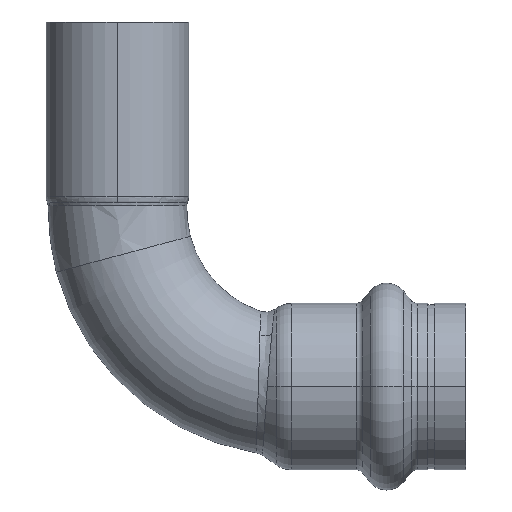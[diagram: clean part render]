
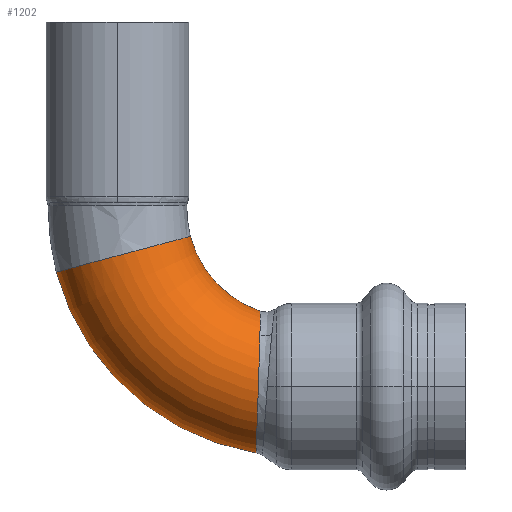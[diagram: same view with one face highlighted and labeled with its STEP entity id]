
A CAD part, top view. The second image highlights one B-rep face of the part: STEP entity #1202.
In plain terms, the highlighted toroidal (fillet/blend) face has major radius 22.5 mm and minor radius 8.75 mm.
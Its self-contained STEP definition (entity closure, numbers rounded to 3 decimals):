
#45 = CARTESIAN_POINT ( 'NONE',  ( 17.525, -7.859, 2.906 ) ) ;
#60 = B_SPLINE_CURVE_WITH_KNOTS ( 'NONE', 3,
 ( #852, #574, #2210, #2737, #1132, #1146, #3000, #2993, #1408, #3244, #1674, #3515, #1949, #298 ),
 .UNSPECIFIED., .F., .F.,
 ( 4, 2, 2, 2, 2, 2, 4 ),
 ( 0.026, 0.028, 0.029, 0.03, 0.031, 0.032, 0.033 ),
 .UNSPECIFIED. ) ;
#65 = VERTEX_POINT ( 'NONE', #2283 ) ;
#66 = CARTESIAN_POINT ( 'NONE',  ( 17.762, -1.067, 8.624 ) ) ;
#298 = CARTESIAN_POINT ( 'NONE',  ( 18.053, 9.489, 0. ) ) ;
#317 = DIRECTION ( 'NONE',  ( -1., 0., 0. ) ) ;
#330 = CARTESIAN_POINT ( 'NONE',  ( 22.5, 22.5, 0. ) ) ;
#364 = CARTESIAN_POINT ( 'NONE',  ( 17.543, -7.351, 4.065 ) ) ;
#372 = CARTESIAN_POINT ( 'NONE',  ( 17.805, 0.2, 8.755 ) ) ;
#381 = DIRECTION ( 'NONE',  ( 0., 0., -1. ) ) ;
#489 = EDGE_CURVE ( 'NONE', #3004, #1353, #655, .T. ) ;
#498 = FACE_OUTER_BOUND ( 'NONE', #2773, .T. ) ;
#552 = EDGE_CURVE ( 'NONE', #1655, #3366, #60, .T. ) ;
#574 = CARTESIAN_POINT ( 'NONE',  ( 18.004, 6.902, 6.137 ) ) ;
#638 = B_SPLINE_CURVE_WITH_KNOTS ( 'NONE', 3,
 ( #2252, #2778, #1459, #3303, #1732, #45, #2002, #364, #2273, #644, #2545, #919, #2792, #1201, #3064, #1469, #3311, #1744, #66, #2012, #372, #2292, #654, #2552, #931, #2805, #1211, #3071, #1486, #3321, #1755 ),
 .UNSPECIFIED., .F., .F.,
 ( 4, 2, 2, 2, 2, 2, 2, 2, 2, 2, 2, 2, 2, 1, 2, 4 ),
 ( 0.005, 0.006, 0.008, 0.009, 0.01, 0.012, 0.013, 0.015, 0.017, 0.018, 0.019, 0.021, 0.022, 0.023, 0.024, 0.026 ),
 .UNSPECIFIED. ) ;
#644 = CARTESIAN_POINT ( 'NONE',  ( 17.567, -6.676, 5.145 ) ) ;
#654 = CARTESIAN_POINT ( 'NONE',  ( 17.846, 1.463, 8.708 ) ) ;
#655 = CIRCLE ( 'NONE', #2477, 8.75 ) ;
#711 = DIRECTION ( 'NONE',  ( 0., 0., -1. ) ) ;
#852 = CARTESIAN_POINT ( 'NONE',  ( 17.992, 6.43, 6.543 ) ) ;
#919 = CARTESIAN_POINT ( 'NONE',  ( 17.596, -5.859, 6.107 ) ) ;
#931 = CARTESIAN_POINT ( 'NONE',  ( 17.886, 2.711, 8.484 ) ) ;
#999 = CARTESIAN_POINT ( 'NONE',  ( 0.76, 16.7, 0. ) ) ;
#1060 = ORIENTED_EDGE ( 'NONE', *, *, #2548, .T. ) ;
#1105 = ORIENTED_EDGE ( 'NONE', *, *, #489, .F. ) ;
#1115 = CARTESIAN_POINT ( 'NONE',  ( 22.5, 22.5, 0. ) ) ;
#1132 = CARTESIAN_POINT ( 'NONE',  ( 18.036, 8.408, 4.168 ) ) ;
#1146 = CARTESIAN_POINT ( 'NONE',  ( 18.043, 8.808, 3.322 ) ) ;
#1151 = CARTESIAN_POINT ( 'NONE',  ( 17.992, 6.43, 6.543 ) ) ;
#1201 = CARTESIAN_POINT ( 'NONE',  ( 17.641, -4.577, 7.224 ) ) ;
#1202 = ADVANCED_FACE ( 'NONE', ( #498 ), #2666, .T. ) ;
#1211 = CARTESIAN_POINT ( 'NONE',  ( 17.935, 4.313, 7.938 ) ) ;
#1353 = VERTEX_POINT ( 'NONE', #3385 ) ;
#1378 = DIRECTION ( 'NONE',  ( -1., 0., 0. ) ) ;
#1408 = CARTESIAN_POINT ( 'NONE',  ( 18.049, 9.213, 2.149 ) ) ;
#1434 = AXIS2_PLACEMENT_3D ( 'NONE', #330, #381, #317 ) ;
#1442 = CIRCLE ( 'NONE', #2677, 13.75 ) ;
#1459 = CARTESIAN_POINT ( 'NONE',  ( 17.509, -8.318, 0.842 ) ) ;
#1469 = CARTESIAN_POINT ( 'NONE',  ( 17.707, -2.692, 8.177 ) ) ;
#1486 = CARTESIAN_POINT ( 'NONE',  ( 17.975, 5.766, 7.075 ) ) ;
#1564 = ORIENTED_EDGE ( 'NONE', *, *, #2538, .F. ) ;
#1603 = ORIENTED_EDGE ( 'NONE', *, *, #552, .T. ) ;
#1655 = VERTEX_POINT ( 'NONE', #1151 ) ;
#1674 = CARTESIAN_POINT ( 'NONE',  ( 18.052, 9.402, 1.243 ) ) ;
#1732 = CARTESIAN_POINT ( 'NONE',  ( 17.517, -8.102, 2.099 ) ) ;
#1744 = CARTESIAN_POINT ( 'NONE',  ( 17.748, -1.48, 8.541 ) ) ;
#1755 = CARTESIAN_POINT ( 'NONE',  ( 17.992, 6.43, 6.543 ) ) ;
#1777 = EDGE_CURVE ( 'NONE', #65, #1655, #638, .T. ) ;
#1885 = CARTESIAN_POINT ( 'NONE',  ( -7.694, 14.444, 0. ) ) ;
#1949 = CARTESIAN_POINT ( 'NONE',  ( 18.053, 9.489, 0.31 ) ) ;
#1982 = CARTESIAN_POINT ( 'NONE',  ( 18.053, 9.489, 0. ) ) ;
#2002 = CARTESIAN_POINT ( 'NONE',  ( 17.531, -7.709, 3.299 ) ) ;
#2012 = CARTESIAN_POINT ( 'NONE',  ( 17.79, -0.228, 8.731 ) ) ;
#2132 = DIRECTION ( 'NONE',  ( -0.258, 0.966, 0. ) ) ;
#2210 = CARTESIAN_POINT ( 'NONE',  ( 18.014, 7.335, 5.678 ) ) ;
#2252 = CARTESIAN_POINT ( 'NONE',  ( 17.508, -8.349, 0. ) ) ;
#2273 = CARTESIAN_POINT ( 'NONE',  ( 17.551, -7.141, 4.44 ) ) ;
#2283 = CARTESIAN_POINT ( 'NONE',  ( 17.508, -8.349, 0. ) ) ;
#2292 = CARTESIAN_POINT ( 'NONE',  ( 17.832, 1.044, 8.743 ) ) ;
#2315 = AXIS2_PLACEMENT_3D ( 'NONE', #1115, #2968, #1378 ) ;
#2345 = CARTESIAN_POINT ( 'NONE',  ( 22.5, 22.5, 0. ) ) ;
#2477 = AXIS2_PLACEMENT_3D ( 'NONE', #999, #2132, #3423 ) ;
#2538 = EDGE_CURVE ( 'NONE', #65, #3004, #3017, .T. ) ;
#2545 = CARTESIAN_POINT ( 'NONE',  ( 17.577, -6.42, 5.478 ) ) ;
#2548 = EDGE_CURVE ( 'NONE', #3366, #1353, #1442, .T. ) ;
#2552 = CARTESIAN_POINT ( 'NONE',  ( 17.873, 2.296, 8.579 ) ) ;
#2605 = DIRECTION ( 'NONE',  ( -1., 0., 0. ) ) ;
#2666 = TOROIDAL_SURFACE ( 'NONE', #1434, 22.5, 8.75 ) ;
#2677 = AXIS2_PLACEMENT_3D ( 'NONE', #2345, #711, #2605 ) ;
#2737 = CARTESIAN_POINT ( 'NONE',  ( 18.03, 8.086, 4.695 ) ) ;
#2773 = EDGE_LOOP ( 'NONE', ( #1564, #3502, #1603, #1060, #1105 ) ) ;
#2778 = CARTESIAN_POINT ( 'NONE',  ( 17.508, -8.349, 0.421 ) ) ;
#2792 = CARTESIAN_POINT ( 'NONE',  ( 17.607, -5.553, 6.405 ) ) ;
#2805 = CARTESIAN_POINT ( 'NONE',  ( 17.911, 3.524, 8.238 ) ) ;
#2968 = DIRECTION ( 'NONE',  ( 0., 0., -1. ) ) ;
#2993 = CARTESIAN_POINT ( 'NONE',  ( 18.048, 9.128, 2.446 ) ) ;
#3000 = CARTESIAN_POINT ( 'NONE',  ( 18.045, 8.926, 3.031 ) ) ;
#3004 = VERTEX_POINT ( 'NONE', #1885 ) ;
#3017 = CIRCLE ( 'NONE', #2315, 31.25 ) ;
#3064 = CARTESIAN_POINT ( 'NONE',  ( 17.666, -3.862, 7.666 ) ) ;
#3071 = CARTESIAN_POINT ( 'NONE',  ( 17.956, 5.052, 7.534 ) ) ;
#3244 = CARTESIAN_POINT ( 'NONE',  ( 18.051, 9.35, 1.547 ) ) ;
#3303 = CARTESIAN_POINT ( 'NONE',  ( 17.513, -8.195, 1.683 ) ) ;
#3311 = CARTESIAN_POINT ( 'NONE',  ( 17.721, -2.291, 8.318 ) ) ;
#3321 = CARTESIAN_POINT ( 'NONE',  ( 17.984, 6.109, 6.819 ) ) ;
#3366 = VERTEX_POINT ( 'NONE', #1982 ) ;
#3385 = CARTESIAN_POINT ( 'NONE',  ( 9.215, 18.955, 0. ) ) ;
#3423 = DIRECTION ( 'NONE',  ( -0.966, -0.258, 0. ) ) ;
#3502 = ORIENTED_EDGE ( 'NONE', *, *, #1777, .T. ) ;
#3515 = CARTESIAN_POINT ( 'NONE',  ( 18.053, 9.471, 0.625 ) ) ;
